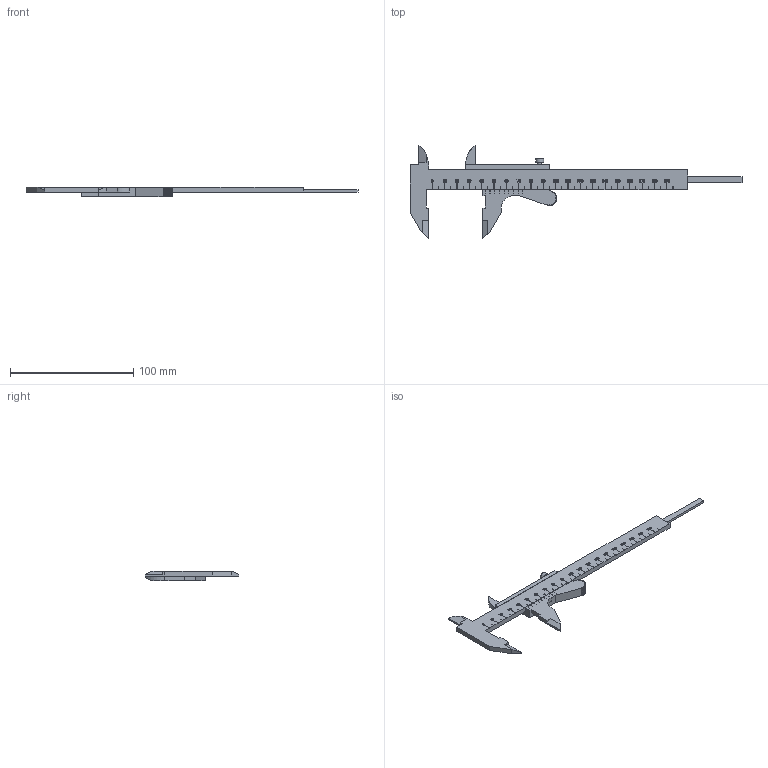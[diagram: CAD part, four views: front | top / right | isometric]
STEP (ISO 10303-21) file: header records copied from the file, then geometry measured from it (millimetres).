
FILE_DESCRIPTION(/* description */ ('シンワ'),/* implementation_level */ '2;1');
FILE_NAME(/* name */ 'C:\Users\Fujimoto-s\OneDrive\Inventor\WorkSpace\その他\ホームページ用\ダウンロード素材\ＰＣ関係\アップロード用\バーニアノギス\バーニアノギス.stp',/* time_stamp */ '2024-08-13T17:14:47+09:00',/* author */ ('Fujimoto-s'),/* organization */ (''),/* preprocessor_version */ 'ST-DEVELOPER v15.2',/* originating_system */ 'Autodesk Inventor 2014',/* authorisation */ '');
FILE_SCHEMA (('AUTOMOTIVE_DESIGN { 1 0 10303 214 3 1 1 }'));
Length unit declared in the file: millimetre
Products named in the file (1): バーニアノギス
Bounding box: 269 x 76 x 8 mm (x, y, z)
Volume: 27952.7 mm3; surface area: 15074 mm2
Topology: 1 solids, 1 shells, 1047 faces, 2887 edges, 1924 vertices
Faces by surface type: plane 564, bspline 464, cylinder 18, cone 1
Full cylindrical faces by diameter (mm): 3 x1, 6.5 x1
Entity records: 36369 total; most frequent: CARTESIAN_POINT 11888, ORIENTED_EDGE 5768, DIRECTION 3163, EDGE_CURVE 2884, VERTEX_POINT 1924, LINE 1917, VECTOR 1917, EDGE_LOOP 1132
